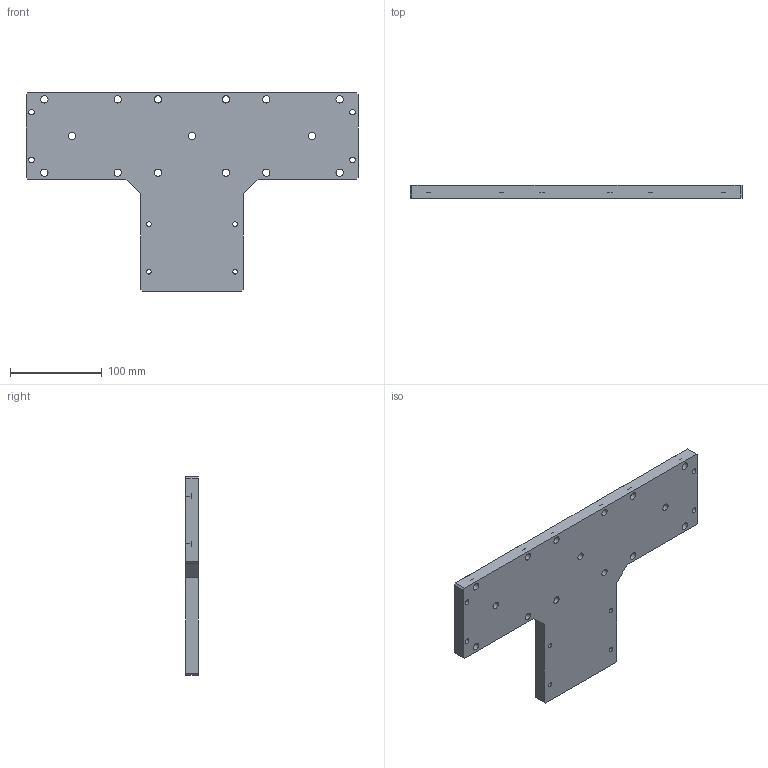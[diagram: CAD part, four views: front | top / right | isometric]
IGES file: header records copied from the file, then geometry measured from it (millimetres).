
Start section:  PTC IGES file: k80-k100m-ft.igs
Global section: file name: k80-k100m-ft.igs; native system: Pro/ENGINEER by Parametric Technology Corporation; preprocessor: 2008230; author: Owner; organization: Unknown; date: 20121212.111647; units: millimetre
Bounding box: 362 x 14 x 216 mm (x, y, z)
Surface area: 119655.9 mm2 (no closed solid volume)
Topology: 0 solids, 0 shells, 121 faces, 640 edges, 631 vertices
Faces by surface type: revolution 84, bspline 37
